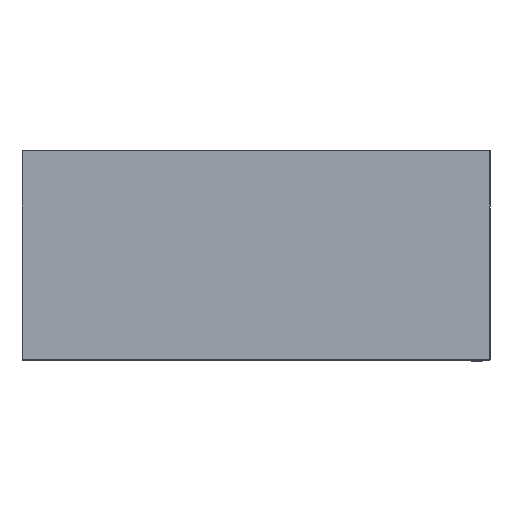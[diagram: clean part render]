
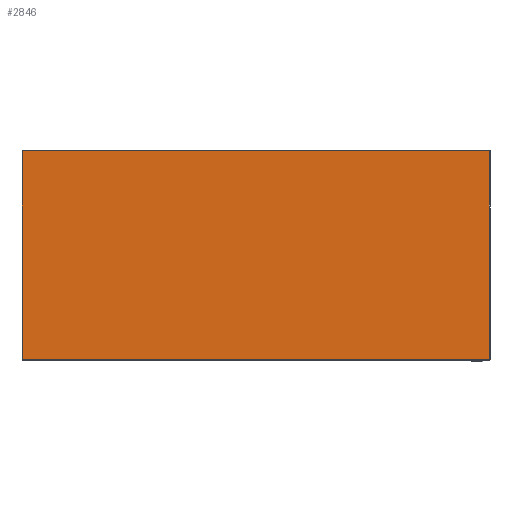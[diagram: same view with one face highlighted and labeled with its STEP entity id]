
A CAD part, top view. The second image highlights one B-rep face of the part: STEP entity #2846.
In plain terms, the highlighted planar face has unit normal (0, 0, 1).
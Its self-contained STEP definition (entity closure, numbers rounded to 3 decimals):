
#468=FACE_OUTER_BOUND('',#644,.T.);
#644=EDGE_LOOP('',(#2105,#2106,#2107,#2108));
#849=LINE('',#4351,#1091);
#868=LINE('',#4397,#1110);
#889=LINE('',#4447,#1131);
#901=LINE('',#4474,#1143);
#1091=VECTOR('',#3442,10.);
#1110=VECTOR('',#3489,10.);
#1131=VECTOR('',#3540,10.);
#1143=VECTOR('',#3576,10.);
#1332=VERTEX_POINT('',#4348);
#1333=VERTEX_POINT('',#4350);
#1346=VERTEX_POINT('',#4396);
#1360=VERTEX_POINT('',#4446);
#1582=EDGE_CURVE('',#1333,#1332,#849,.T.);
#1605=EDGE_CURVE('',#1346,#1333,#868,.T.);
#1630=EDGE_CURVE('',#1360,#1346,#889,.T.);
#1645=EDGE_CURVE('',#1360,#1332,#901,.T.);
#2105=ORIENTED_EDGE('',*,*,#1582,.T.);
#2106=ORIENTED_EDGE('',*,*,#1645,.F.);
#2107=ORIENTED_EDGE('',*,*,#1630,.T.);
#2108=ORIENTED_EDGE('',*,*,#1605,.T.);
#2729=PLANE('',#3126);
#2846=ADVANCED_FACE('',(#468),#2729,.T.);
#3126=AXIS2_PLACEMENT_3D('',#4476,#3579,#3580);
#3442=DIRECTION('',(0.,1.,0.));
#3489=DIRECTION('',(1.,0.,0.));
#3540=DIRECTION('',(0.,-1.,0.));
#3576=DIRECTION('',(1.,0.,0.));
#3579=DIRECTION('center_axis',(0.,0.,1.));
#3580=DIRECTION('ref_axis',(1.,0.,0.));
#4348=CARTESIAN_POINT('',(66.9,250.,0.8));
#4350=CARTESIAN_POINT('',(66.9,-750.4,0.8));
#4351=CARTESIAN_POINT('',(66.9,-500.7,0.8));
#4396=CARTESIAN_POINT('',(-379.9,-750.4,0.8));
#4397=CARTESIAN_POINT('',(-268.2,-750.4,0.8));
#4446=CARTESIAN_POINT('',(-379.9,250.,0.8));
#4447=CARTESIAN_POINT('',(-379.9,-0.5,0.8));
#4474=CARTESIAN_POINT('',(68.5,250.,0.8));
#4476=CARTESIAN_POINT('Origin',(-156.5,-251.,0.8));
